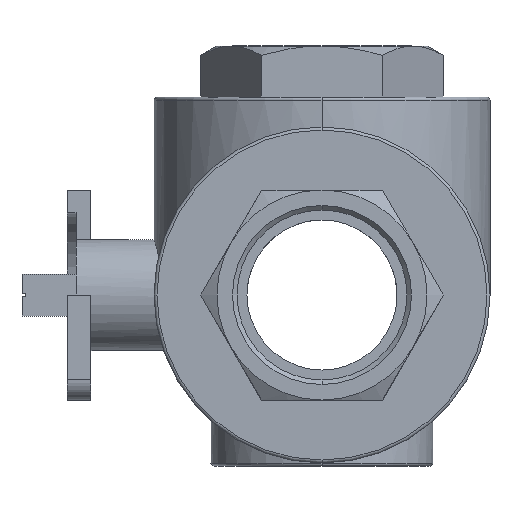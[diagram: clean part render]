
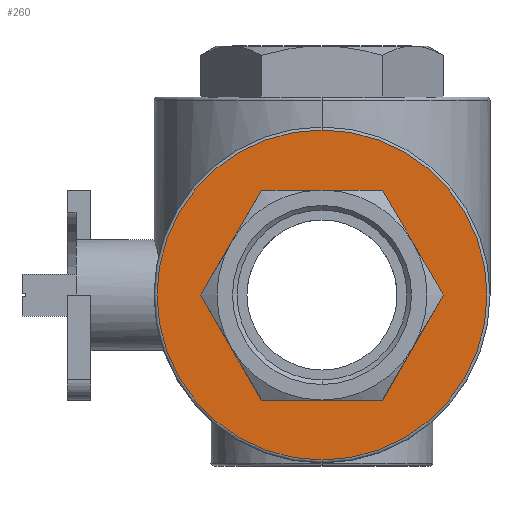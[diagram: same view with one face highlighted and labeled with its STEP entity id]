
A CAD part, left-side view. The second image highlights one B-rep face of the part: STEP entity #260.
In plain terms, the highlighted planar face has unit normal (-1, 0, 0).
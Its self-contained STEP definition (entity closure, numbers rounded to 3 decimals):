
#260 = ADVANCED_FACE ( 'NONE', ( #2415, #2404 ), #2995, .T. ) ;
#361 = CARTESIAN_POINT ( 'NONE',  ( -68., -20.207, 35. ) ) ;
#391 = CARTESIAN_POINT ( 'NONE',  ( -68., 20.207, 35. ) ) ;
#403 = CARTESIAN_POINT ( 'NONE',  ( -68., 20.207, -35. ) ) ;
#434 = CARTESIAN_POINT ( 'NONE',  ( -68., -40.415, 0. ) ) ;
#485 = CARTESIAN_POINT ( 'NONE',  ( -68., -20.207, -35. ) ) ;
#516 = CARTESIAN_POINT ( 'NONE',  ( -68., 40.415, 0. ) ) ;
#540 = CARTESIAN_POINT ( 'NONE',  ( -68., 0., 55. ) ) ;
#544 = CARTESIAN_POINT ( 'NONE',  ( -68., 0., -55. ) ) ;
#571 = CARTESIAN_POINT ( 'NONE',  ( -68., 0., 0. ) ) ;
#572 = DIRECTION ( 'NONE',  ( -1., 0., 0. ) ) ;
#573 = DIRECTION ( 'NONE',  ( 0., 0., 1. ) ) ;
#968 = EDGE_CURVE ( 'NONE', #1287, #1338, #2528, .T. ) ;
#972 = EDGE_CURVE ( 'NONE', #1338, #1256, #2526, .T. ) ;
#975 = EDGE_CURVE ( 'NONE', #1256, #1369, #2531, .T. ) ;
#980 = EDGE_CURVE ( 'NONE', #1213, #1287, #2516, .T. ) ;
#988 = EDGE_CURVE ( 'NONE', #1244, #1213, #2546, .T. ) ;
#993 = EDGE_CURVE ( 'NONE', #1369, #1244, #2556, .T. ) ;
#1090 = EDGE_CURVE ( 'NONE', #1397, #1393, #2693, .T. ) ;
#1213 = VERTEX_POINT ( 'NONE', #361 ) ;
#1244 = VERTEX_POINT ( 'NONE', #391 ) ;
#1256 = VERTEX_POINT ( 'NONE', #403 ) ;
#1287 = VERTEX_POINT ( 'NONE', #434 ) ;
#1338 = VERTEX_POINT ( 'NONE', #485 ) ;
#1369 = VERTEX_POINT ( 'NONE', #516 ) ;
#1393 = VERTEX_POINT ( 'NONE', #540 ) ;
#1397 = VERTEX_POINT ( 'NONE', #544 ) ;
#1551 = ORIENTED_EDGE ( 'NONE', *, *, #975, .T. ) ;
#1552 = ORIENTED_EDGE ( 'NONE', *, *, #972, .T. ) ;
#1553 = ORIENTED_EDGE ( 'NONE', *, *, #968, .T. ) ;
#1554 = ORIENTED_EDGE ( 'NONE', *, *, #980, .T. ) ;
#1555 = ORIENTED_EDGE ( 'NONE', *, *, #988, .T. ) ;
#1556 = ORIENTED_EDGE ( 'NONE', *, *, #993, .T. ) ;
#1557 = ORIENTED_EDGE ( 'NONE', *, *, #1090, .T. ) ;
#1558 = ORIENTED_EDGE ( 'NONE', *, *, #2001, .T. ) ;
#1625 = CIRCLE ( 'NONE', #2275, 55. ) ;
#2001 = EDGE_CURVE ( 'NONE', #1393, #1397, #1625, .T. ) ;
#2146 = AXIS2_PLACEMENT_3D ( 'NONE', #2987, #2996, #2997 ) ;
#2226 = AXIS2_PLACEMENT_3D ( 'NONE', #3708, #3726, #3727 ) ;
#2275 = AXIS2_PLACEMENT_3D ( 'NONE', #571, #572, #573 ) ;
#2404 = FACE_BOUND ( 'NONE', #4419, .T. ) ;
#2415 = FACE_OUTER_BOUND ( 'NONE', #4401, .T. ) ;
#2516 = LINE ( 'NONE', #3310, #2540 ) ;
#2526 = LINE ( 'NONE', #3265, #2530 ) ;
#2528 = LINE ( 'NONE', #3254, #2529 ) ;
#2529 = VECTOR ( 'NONE', #3255, 1000. ) ;
#2530 = VECTOR ( 'NONE', #3282, 1000. ) ;
#2531 = LINE ( 'NONE', #3297, #2532 ) ;
#2532 = VECTOR ( 'NONE', #3298, 1000. ) ;
#2540 = VECTOR ( 'NONE', #3314, 1000. ) ;
#2546 = LINE ( 'NONE', #3344, #2548 ) ;
#2548 = VECTOR ( 'NONE', #3355, 1000. ) ;
#2556 = LINE ( 'NONE', #3364, #2557 ) ;
#2557 = VECTOR ( 'NONE', #3365, 1000. ) ;
#2693 = CIRCLE ( 'NONE', #2226, 55. ) ;
#2987 = CARTESIAN_POINT ( 'NONE',  ( -68., 0., 0. ) ) ;
#2995 = PLANE ( 'NONE',  #2146 ) ;
#2996 = DIRECTION ( 'NONE',  ( -1., 0., 0. ) ) ;
#2997 = DIRECTION ( 'NONE',  ( 0., 0., 1. ) ) ;
#3254 = CARTESIAN_POINT ( 'NONE',  ( -68., -30.311, -17.5 ) ) ;
#3255 = DIRECTION ( 'NONE',  ( 0., 0.5, -0.866 ) ) ;
#3265 = CARTESIAN_POINT ( 'NONE',  ( -68., 0., -35. ) ) ;
#3282 = DIRECTION ( 'NONE',  ( 0., 1., 0. ) ) ;
#3297 = CARTESIAN_POINT ( 'NONE',  ( -68., 30.311, -17.5 ) ) ;
#3298 = DIRECTION ( 'NONE',  ( 0., 0.5, 0.866 ) ) ;
#3310 = CARTESIAN_POINT ( 'NONE',  ( -68., -30.311, 17.5 ) ) ;
#3314 = DIRECTION ( 'NONE',  ( 0., -0.5, -0.866 ) ) ;
#3344 = CARTESIAN_POINT ( 'NONE',  ( -68., 0., 35. ) ) ;
#3355 = DIRECTION ( 'NONE',  ( 0., -1., 0. ) ) ;
#3364 = CARTESIAN_POINT ( 'NONE',  ( -68., 30.311, 17.5 ) ) ;
#3365 = DIRECTION ( 'NONE',  ( 0., -0.5, 0.866 ) ) ;
#3708 = CARTESIAN_POINT ( 'NONE',  ( -68., 0., 0. ) ) ;
#3726 = DIRECTION ( 'NONE',  ( -1., 0., 0. ) ) ;
#3727 = DIRECTION ( 'NONE',  ( 0., 0., 1. ) ) ;
#4401 = EDGE_LOOP ( 'NONE', ( #1558, #1557 ) ) ;
#4419 = EDGE_LOOP ( 'NONE', ( #1556, #1555, #1554, #1553, #1552, #1551 ) ) ;
